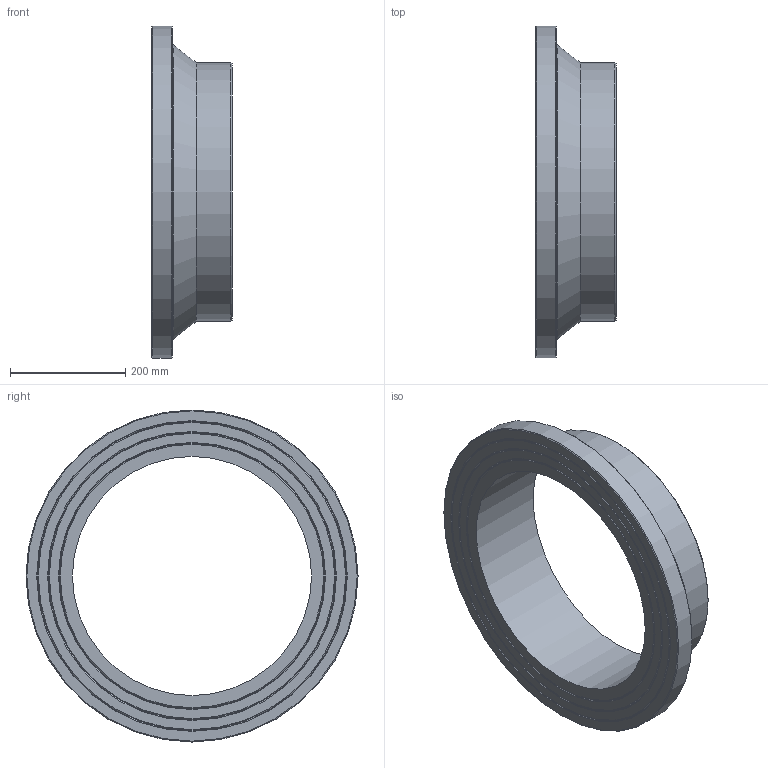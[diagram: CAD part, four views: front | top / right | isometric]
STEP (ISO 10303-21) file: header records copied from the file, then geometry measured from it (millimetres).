
FILE_DESCRIPTION(/* description */ ('Unknown'),/* implementation_level */ '2;1');
FILE_NAME(/* name */ 'CCP450A',/* time_stamp */ '2022-04-05T10:37:55+02:00',/* author */ ('Unknown'),/* organization */ ('Unknown'),/* preprocessor_version */ 'ST-DEVELOPER v18.1',/* originating_system */ 'Solid Edge',/* authorisation */ 'Unknown');
FILE_SCHEMA (('AUTOMOTIVE_DESIGN {1 0 10303 214 3 1 1}'));
Length unit declared in the file: millimetre
Products named in the file (1): CCP450A
Bounding box: 140 x 577 x 577 mm (x, y, z)
Volume: 7919015.1 mm3; surface area: 616522.8 mm2
Topology: 1 solids, 1 shells, 20 faces, 35 edges, 21 vertices
Faces by surface type: cone 10, plane 6, cylinder 3, torus 1
Full cylindrical faces by diameter (mm): 415.6 x1, 450 x1, 577 x1
Entity records: 438 total; most frequent: DIRECTION 82, CARTESIAN_POINT 61, AXIS2_PLACEMENT_3D 41, ORIENTED_EDGE 40, EDGE_LOOP 40, FACE_BOUND 40, EDGE_CURVE 20, VERTEX_POINT 20
